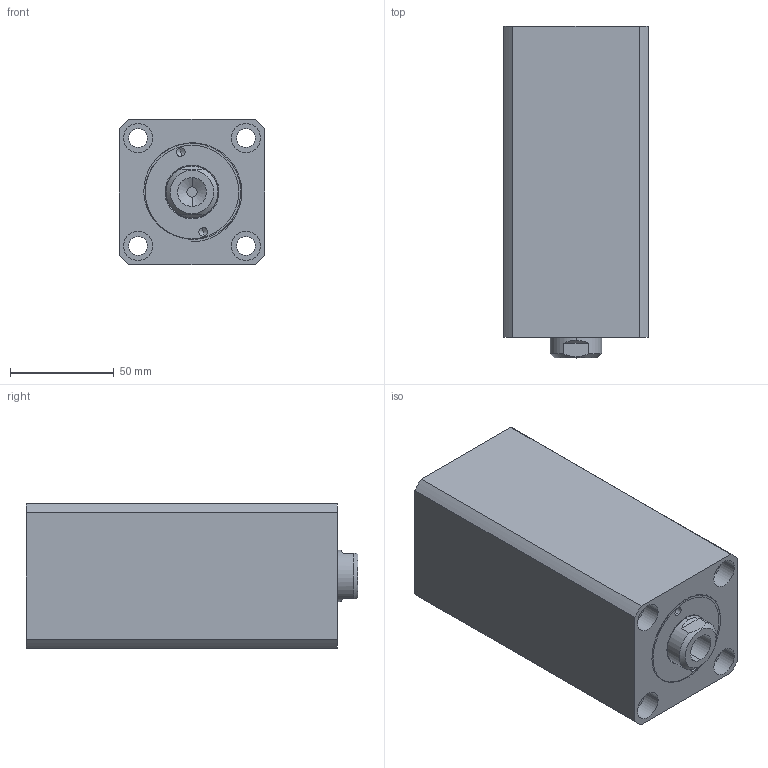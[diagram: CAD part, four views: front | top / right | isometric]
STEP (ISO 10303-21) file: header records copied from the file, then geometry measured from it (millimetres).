
FILE_DESCRIPTION (( 'STEP AP214' ), '1' );
FILE_NAME ('chtb-sd40x95n_asm.STEP', '2018-06-07T08:09:06', ( 'Windows' ), ( 'Microsoft' ), 'SwSTEP 2.0', 'SolidWorks 2015', '' );
FILE_SCHEMA (( 'AUTOMOTIVE_DESIGN' ));
Length unit declared in the file: millimetre
Products named in the file (4): CHTB-SD40QG; CHTB-SD40X95NBT; CHTB-SD40X95NHSG; chtb-sd40x95n_asm
Assembly tree (3 placements, depth 2):
  chtb-sd40x95n_asm
    CHTB-SD40X95NHSG
    CHTB-SD40X95NBT
    CHTB-SD40QG
Bounding box: 70 x 160 x 70 mm (x, y, z)
Volume: 603487 mm3; surface area: 115804.4 mm2
Topology: 3 solids, 3 shells, 157 faces, 401 edges, 266 vertices
Faces by surface type: cylinder 80, plane 36, torus 14, bspline 14, cone 13
Entity records: 9977 total; most frequent: CARTESIAN_POINT 6053, ORIENTED_EDGE 790, DIRECTION 768, EDGE_CURVE 395, AXIS2_PLACEMENT_3D 328, VERTEX_POINT 266, EDGE_LOOP 193, CIRCLE 179
